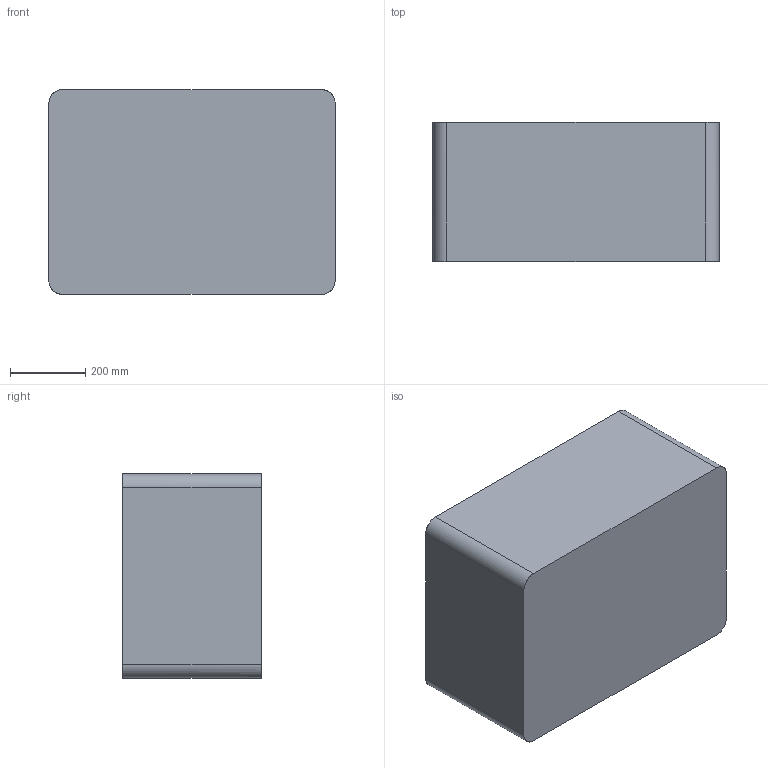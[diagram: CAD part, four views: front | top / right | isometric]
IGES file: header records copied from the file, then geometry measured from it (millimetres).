
Start section: SolidWorks IGES file using analytic representation for surfaces
Global section: file name: C:\temp\EU files dimensions 12-14-15\EU case files in pdf and DXF format\1660 Peli Case Bottom.IGS; native system: SolidWorks 2014; preprocessor: SolidWorks 2014; author: mhakami; date: 160215.172952; units: inch
Bounding box: 759.62 x 368.3 x 542.89 mm (x, y, z)
Surface area: 4288200.8 mm2 (no closed solid volume)
Topology: 0 solids, 0 shells, 1383 faces, 15485 edges, 15458 vertices
Faces by surface type: bspline 809, revolution 574
